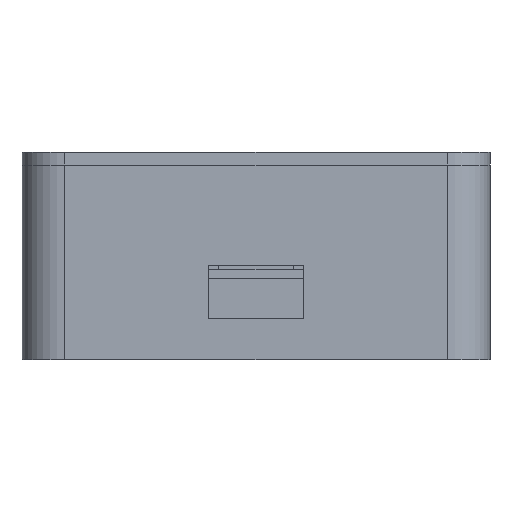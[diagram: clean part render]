
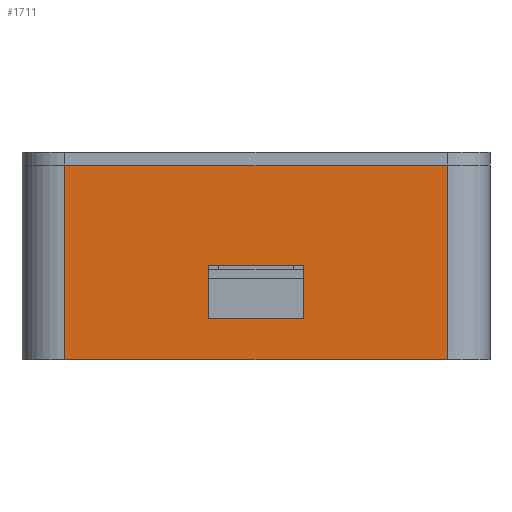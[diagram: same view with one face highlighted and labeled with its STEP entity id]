
A CAD part, front view. The second image highlights one B-rep face of the part: STEP entity #1711.
In plain terms, the highlighted planar face has unit normal (0, -1, 0).
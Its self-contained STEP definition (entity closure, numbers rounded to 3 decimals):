
#74 = PLANE('',#75);
#75 = AXIS2_PLACEMENT_3D('',#76,#77,#78);
#76 = CARTESIAN_POINT('',(-44.,-56.,36.6));
#77 = DIRECTION('',(0.,0.,1.));
#78 = DIRECTION('',(1.,0.,0.));
#102 = CYLINDRICAL_SURFACE('',#103,8.);
#103 = AXIS2_PLACEMENT_3D('',#104,#105,#106);
#104 = CARTESIAN_POINT('',(-36.,-48.,0.));
#105 = DIRECTION('',(0.,0.,1.));
#106 = DIRECTION('',(-1.,-0.,0.));
#130 = PLANE('',#131);
#131 = AXIS2_PLACEMENT_3D('',#132,#133,#134);
#132 = CARTESIAN_POINT('',(-44.,-56.,0.));
#133 = DIRECTION('',(0.,0.,1.));
#134 = DIRECTION('',(1.,0.,0.));
#173 = VERTEX_POINT('',#174);
#174 = CARTESIAN_POINT('',(-36.,-56.,36.6));
#196 = EDGE_CURVE('',#173,#197,#199,.T.);
#197 = VERTEX_POINT('',#198);
#198 = CARTESIAN_POINT('',(36.,-56.,36.6));
#199 = SURFACE_CURVE('',#200,(#204,#211),.PCURVE_S1.);
#200 = LINE('',#201,#202);
#201 = CARTESIAN_POINT('',(-44.,-56.,36.6));
#202 = VECTOR('',#203,1.);
#203 = DIRECTION('',(1.,0.,0.));
#204 = PCURVE('',#74,#205);
#205 = DEFINITIONAL_REPRESENTATION('',(#206),#210);
#206 = LINE('',#207,#208);
#207 = CARTESIAN_POINT('',(0.,0.));
#208 = VECTOR('',#209,1.);
#209 = DIRECTION('',(1.,0.));
#210 = ( GEOMETRIC_REPRESENTATION_CONTEXT(2) 
PARAMETRIC_REPRESENTATION_CONTEXT() REPRESENTATION_CONTEXT('2D SPACE',''
  ) );
#211 = PCURVE('',#212,#217);
#212 = PLANE('',#213);
#213 = AXIS2_PLACEMENT_3D('',#214,#215,#216);
#214 = CARTESIAN_POINT('',(-44.,-56.,0.));
#215 = DIRECTION('',(0.,1.,0.));
#216 = DIRECTION('',(0.,0.,1.));
#217 = DEFINITIONAL_REPRESENTATION('',(#218),#222);
#218 = LINE('',#219,#220);
#219 = CARTESIAN_POINT('',(36.6,0.));
#220 = VECTOR('',#221,1.);
#221 = DIRECTION('',(0.,1.));
#222 = ( GEOMETRIC_REPRESENTATION_CONTEXT(2) 
PARAMETRIC_REPRESENTATION_CONTEXT() REPRESENTATION_CONTEXT('2D SPACE',''
  ) );
#245 = CYLINDRICAL_SURFACE('',#246,8.);
#246 = AXIS2_PLACEMENT_3D('',#247,#248,#249);
#247 = CARTESIAN_POINT('',(36.,-48.,0.));
#248 = DIRECTION('',(0.,0.,1.));
#249 = DIRECTION('',(1.,0.,-0.));
#1230 = VERTEX_POINT('',#1231);
#1231 = CARTESIAN_POINT('',(-36.,-56.,0.));
#1253 = EDGE_CURVE('',#1230,#173,#1254,.T.);
#1254 = SURFACE_CURVE('',#1255,(#1259,#1266),.PCURVE_S1.);
#1255 = LINE('',#1256,#1257);
#1256 = CARTESIAN_POINT('',(-36.,-56.,0.));
#1257 = VECTOR('',#1258,1.);
#1258 = DIRECTION('',(0.,0.,1.));
#1259 = PCURVE('',#102,#1260);
#1260 = DEFINITIONAL_REPRESENTATION('',(#1261),#1265);
#1261 = LINE('',#1262,#1263);
#1262 = CARTESIAN_POINT('',(1.571,0.));
#1263 = VECTOR('',#1264,1.);
#1264 = DIRECTION('',(0.,1.));
#1265 = ( GEOMETRIC_REPRESENTATION_CONTEXT(2) 
PARAMETRIC_REPRESENTATION_CONTEXT() REPRESENTATION_CONTEXT('2D SPACE',''
  ) );
#1266 = PCURVE('',#212,#1267);
#1267 = DEFINITIONAL_REPRESENTATION('',(#1268),#1272);
#1268 = LINE('',#1269,#1270);
#1269 = CARTESIAN_POINT('',(0.,8.));
#1270 = VECTOR('',#1271,1.);
#1271 = DIRECTION('',(1.,0.));
#1272 = ( GEOMETRIC_REPRESENTATION_CONTEXT(2) 
PARAMETRIC_REPRESENTATION_CONTEXT() REPRESENTATION_CONTEXT('2D SPACE',''
  ) );
#1335 = EDGE_CURVE('',#1230,#1336,#1338,.T.);
#1336 = VERTEX_POINT('',#1337);
#1337 = CARTESIAN_POINT('',(36.,-56.,0.));
#1338 = SURFACE_CURVE('',#1339,(#1343,#1350),.PCURVE_S1.);
#1339 = LINE('',#1340,#1341);
#1340 = CARTESIAN_POINT('',(-44.,-56.,0.));
#1341 = VECTOR('',#1342,1.);
#1342 = DIRECTION('',(1.,0.,0.));
#1343 = PCURVE('',#130,#1344);
#1344 = DEFINITIONAL_REPRESENTATION('',(#1345),#1349);
#1345 = LINE('',#1346,#1347);
#1346 = CARTESIAN_POINT('',(0.,0.));
#1347 = VECTOR('',#1348,1.);
#1348 = DIRECTION('',(1.,0.));
#1349 = ( GEOMETRIC_REPRESENTATION_CONTEXT(2) 
PARAMETRIC_REPRESENTATION_CONTEXT() REPRESENTATION_CONTEXT('2D SPACE',''
  ) );
#1350 = PCURVE('',#212,#1351);
#1351 = DEFINITIONAL_REPRESENTATION('',(#1352),#1356);
#1352 = LINE('',#1353,#1354);
#1353 = CARTESIAN_POINT('',(0.,0.));
#1354 = VECTOR('',#1355,1.);
#1355 = DIRECTION('',(0.,1.));
#1356 = ( GEOMETRIC_REPRESENTATION_CONTEXT(2) 
PARAMETRIC_REPRESENTATION_CONTEXT() REPRESENTATION_CONTEXT('2D SPACE',''
  ) );
#1711 = ADVANCED_FACE('',(#1712,#1738),#212,.F.);
#1712 = FACE_BOUND('',#1713,.F.);
#1713 = EDGE_LOOP('',(#1714,#1715,#1716,#1717));
#1714 = ORIENTED_EDGE('',*,*,#1335,.F.);
#1715 = ORIENTED_EDGE('',*,*,#1253,.T.);
#1716 = ORIENTED_EDGE('',*,*,#196,.T.);
#1717 = ORIENTED_EDGE('',*,*,#1718,.F.);
#1718 = EDGE_CURVE('',#1336,#197,#1719,.T.);
#1719 = SURFACE_CURVE('',#1720,(#1724,#1731),.PCURVE_S1.);
#1720 = LINE('',#1721,#1722);
#1721 = CARTESIAN_POINT('',(36.,-56.,0.));
#1722 = VECTOR('',#1723,1.);
#1723 = DIRECTION('',(0.,0.,1.));
#1724 = PCURVE('',#212,#1725);
#1725 = DEFINITIONAL_REPRESENTATION('',(#1726),#1730);
#1726 = LINE('',#1727,#1728);
#1727 = CARTESIAN_POINT('',(0.,80.));
#1728 = VECTOR('',#1729,1.);
#1729 = DIRECTION('',(1.,0.));
#1730 = ( GEOMETRIC_REPRESENTATION_CONTEXT(2) 
PARAMETRIC_REPRESENTATION_CONTEXT() REPRESENTATION_CONTEXT('2D SPACE',''
  ) );
#1731 = PCURVE('',#245,#1732);
#1732 = DEFINITIONAL_REPRESENTATION('',(#1733),#1737);
#1733 = LINE('',#1734,#1735);
#1734 = CARTESIAN_POINT('',(-1.571,0.));
#1735 = VECTOR('',#1736,1.);
#1736 = DIRECTION('',(-0.,1.));
#1737 = ( GEOMETRIC_REPRESENTATION_CONTEXT(2) 
PARAMETRIC_REPRESENTATION_CONTEXT() REPRESENTATION_CONTEXT('2D SPACE',''
  ) );
#1738 = FACE_BOUND('',#1739,.F.);
#1739 = EDGE_LOOP('',(#1740,#1768,#1794,#1820));
#1740 = ORIENTED_EDGE('',*,*,#1741,.F.);
#1741 = EDGE_CURVE('',#1742,#1744,#1746,.T.);
#1742 = VERTEX_POINT('',#1743);
#1743 = CARTESIAN_POINT('',(-9.,-56.,17.8));
#1744 = VERTEX_POINT('',#1745);
#1745 = CARTESIAN_POINT('',(9.,-56.,17.8));
#1746 = SURFACE_CURVE('',#1747,(#1751,#1757),.PCURVE_S1.);
#1747 = LINE('',#1748,#1749);
#1748 = CARTESIAN_POINT('',(-26.5,-56.,17.8));
#1749 = VECTOR('',#1750,1.);
#1750 = DIRECTION('',(1.,0.,0.));
#1751 = PCURVE('',#212,#1752);
#1752 = DEFINITIONAL_REPRESENTATION('',(#1753),#1756);
#1753 = B_SPLINE_CURVE_WITH_KNOTS('',1,(#1754,#1755),.UNSPECIFIED.,.F.,
  .F.,(2,2),(17.5,35.5),.PIECEWISE_BEZIER_KNOTS.);
#1754 = CARTESIAN_POINT('',(17.8,35.));
#1755 = CARTESIAN_POINT('',(17.8,53.));
#1756 = ( GEOMETRIC_REPRESENTATION_CONTEXT(2) 
PARAMETRIC_REPRESENTATION_CONTEXT() REPRESENTATION_CONTEXT('2D SPACE',''
  ) );
#1757 = PCURVE('',#1758,#1763);
#1758 = PLANE('',#1759);
#1759 = AXIS2_PLACEMENT_3D('',#1760,#1761,#1762);
#1760 = CARTESIAN_POINT('',(-9.,-57.,17.8));
#1761 = DIRECTION('',(0.,0.,1.));
#1762 = DIRECTION('',(1.,0.,0.));
#1763 = DEFINITIONAL_REPRESENTATION('',(#1764),#1767);
#1764 = B_SPLINE_CURVE_WITH_KNOTS('',1,(#1765,#1766),.UNSPECIFIED.,.F.,
  .F.,(2,2),(17.5,35.5),.PIECEWISE_BEZIER_KNOTS.);
#1765 = CARTESIAN_POINT('',(0.,1.));
#1766 = CARTESIAN_POINT('',(18.,1.));
#1767 = ( GEOMETRIC_REPRESENTATION_CONTEXT(2) 
PARAMETRIC_REPRESENTATION_CONTEXT() REPRESENTATION_CONTEXT('2D SPACE',''
  ) );
#1768 = ORIENTED_EDGE('',*,*,#1769,.T.);
#1769 = EDGE_CURVE('',#1742,#1770,#1772,.T.);
#1770 = VERTEX_POINT('',#1771);
#1771 = CARTESIAN_POINT('',(-9.,-56.,7.8));
#1772 = SURFACE_CURVE('',#1773,(#1777,#1783),.PCURVE_S1.);
#1773 = LINE('',#1774,#1775);
#1774 = CARTESIAN_POINT('',(-9.,-56.,3.9));
#1775 = VECTOR('',#1776,1.);
#1776 = DIRECTION('',(0.,0.,-1.));
#1777 = PCURVE('',#212,#1778);
#1778 = DEFINITIONAL_REPRESENTATION('',(#1779),#1782);
#1779 = B_SPLINE_CURVE_WITH_KNOTS('',1,(#1780,#1781),.UNSPECIFIED.,.F.,
  .F.,(2,2),(-13.9,-3.9),.PIECEWISE_BEZIER_KNOTS.);
#1780 = CARTESIAN_POINT('',(17.8,35.));
#1781 = CARTESIAN_POINT('',(7.8,35.));
#1782 = ( GEOMETRIC_REPRESENTATION_CONTEXT(2) 
PARAMETRIC_REPRESENTATION_CONTEXT() REPRESENTATION_CONTEXT('2D SPACE',''
  ) );
#1783 = PCURVE('',#1784,#1789);
#1784 = PLANE('',#1785);
#1785 = AXIS2_PLACEMENT_3D('',#1786,#1787,#1788);
#1786 = CARTESIAN_POINT('',(-9.,-57.,7.8));
#1787 = DIRECTION('',(1.,0.,0.));
#1788 = DIRECTION('',(0.,0.,1.));
#1789 = DEFINITIONAL_REPRESENTATION('',(#1790),#1793);
#1790 = B_SPLINE_CURVE_WITH_KNOTS('',1,(#1791,#1792),.UNSPECIFIED.,.F.,
  .F.,(2,2),(-13.9,-3.9),.PIECEWISE_BEZIER_KNOTS.);
#1791 = CARTESIAN_POINT('',(10.,-1.));
#1792 = CARTESIAN_POINT('',(0.,-1.));
#1793 = ( GEOMETRIC_REPRESENTATION_CONTEXT(2) 
PARAMETRIC_REPRESENTATION_CONTEXT() REPRESENTATION_CONTEXT('2D SPACE',''
  ) );
#1794 = ORIENTED_EDGE('',*,*,#1795,.T.);
#1795 = EDGE_CURVE('',#1770,#1796,#1798,.T.);
#1796 = VERTEX_POINT('',#1797);
#1797 = CARTESIAN_POINT('',(9.,-56.,7.8));
#1798 = SURFACE_CURVE('',#1799,(#1803,#1809),.PCURVE_S1.);
#1799 = LINE('',#1800,#1801);
#1800 = CARTESIAN_POINT('',(-26.5,-56.,7.8));
#1801 = VECTOR('',#1802,1.);
#1802 = DIRECTION('',(1.,0.,0.));
#1803 = PCURVE('',#212,#1804);
#1804 = DEFINITIONAL_REPRESENTATION('',(#1805),#1808);
#1805 = B_SPLINE_CURVE_WITH_KNOTS('',1,(#1806,#1807),.UNSPECIFIED.,.F.,
  .F.,(2,2),(17.5,35.5),.PIECEWISE_BEZIER_KNOTS.);
#1806 = CARTESIAN_POINT('',(7.8,35.));
#1807 = CARTESIAN_POINT('',(7.8,53.));
#1808 = ( GEOMETRIC_REPRESENTATION_CONTEXT(2) 
PARAMETRIC_REPRESENTATION_CONTEXT() REPRESENTATION_CONTEXT('2D SPACE',''
  ) );
#1809 = PCURVE('',#1810,#1815);
#1810 = PLANE('',#1811);
#1811 = AXIS2_PLACEMENT_3D('',#1812,#1813,#1814);
#1812 = CARTESIAN_POINT('',(-9.,-57.,7.8));
#1813 = DIRECTION('',(0.,0.,1.));
#1814 = DIRECTION('',(1.,0.,0.));
#1815 = DEFINITIONAL_REPRESENTATION('',(#1816),#1819);
#1816 = B_SPLINE_CURVE_WITH_KNOTS('',1,(#1817,#1818),.UNSPECIFIED.,.F.,
  .F.,(2,2),(17.5,35.5),.PIECEWISE_BEZIER_KNOTS.);
#1817 = CARTESIAN_POINT('',(0.,1.));
#1818 = CARTESIAN_POINT('',(18.,1.));
#1819 = ( GEOMETRIC_REPRESENTATION_CONTEXT(2) 
PARAMETRIC_REPRESENTATION_CONTEXT() REPRESENTATION_CONTEXT('2D SPACE',''
  ) );
#1820 = ORIENTED_EDGE('',*,*,#1821,.F.);
#1821 = EDGE_CURVE('',#1744,#1796,#1822,.T.);
#1822 = SURFACE_CURVE('',#1823,(#1827,#1833),.PCURVE_S1.);
#1823 = LINE('',#1824,#1825);
#1824 = CARTESIAN_POINT('',(9.,-56.,3.9));
#1825 = VECTOR('',#1826,1.);
#1826 = DIRECTION('',(0.,0.,-1.));
#1827 = PCURVE('',#212,#1828);
#1828 = DEFINITIONAL_REPRESENTATION('',(#1829),#1832);
#1829 = B_SPLINE_CURVE_WITH_KNOTS('',1,(#1830,#1831),.UNSPECIFIED.,.F.,
  .F.,(2,2),(-13.9,-3.9),.PIECEWISE_BEZIER_KNOTS.);
#1830 = CARTESIAN_POINT('',(17.8,53.));
#1831 = CARTESIAN_POINT('',(7.8,53.));
#1832 = ( GEOMETRIC_REPRESENTATION_CONTEXT(2) 
PARAMETRIC_REPRESENTATION_CONTEXT() REPRESENTATION_CONTEXT('2D SPACE',''
  ) );
#1833 = PCURVE('',#1834,#1839);
#1834 = PLANE('',#1835);
#1835 = AXIS2_PLACEMENT_3D('',#1836,#1837,#1838);
#1836 = CARTESIAN_POINT('',(9.,-57.,7.8));
#1837 = DIRECTION('',(1.,0.,0.));
#1838 = DIRECTION('',(0.,0.,1.));
#1839 = DEFINITIONAL_REPRESENTATION('',(#1840),#1843);
#1840 = B_SPLINE_CURVE_WITH_KNOTS('',1,(#1841,#1842),.UNSPECIFIED.,.F.,
  .F.,(2,2),(-13.9,-3.9),.PIECEWISE_BEZIER_KNOTS.);
#1841 = CARTESIAN_POINT('',(10.,-1.));
#1842 = CARTESIAN_POINT('',(0.,-1.));
#1843 = ( GEOMETRIC_REPRESENTATION_CONTEXT(2) 
PARAMETRIC_REPRESENTATION_CONTEXT() REPRESENTATION_CONTEXT('2D SPACE',''
  ) );
